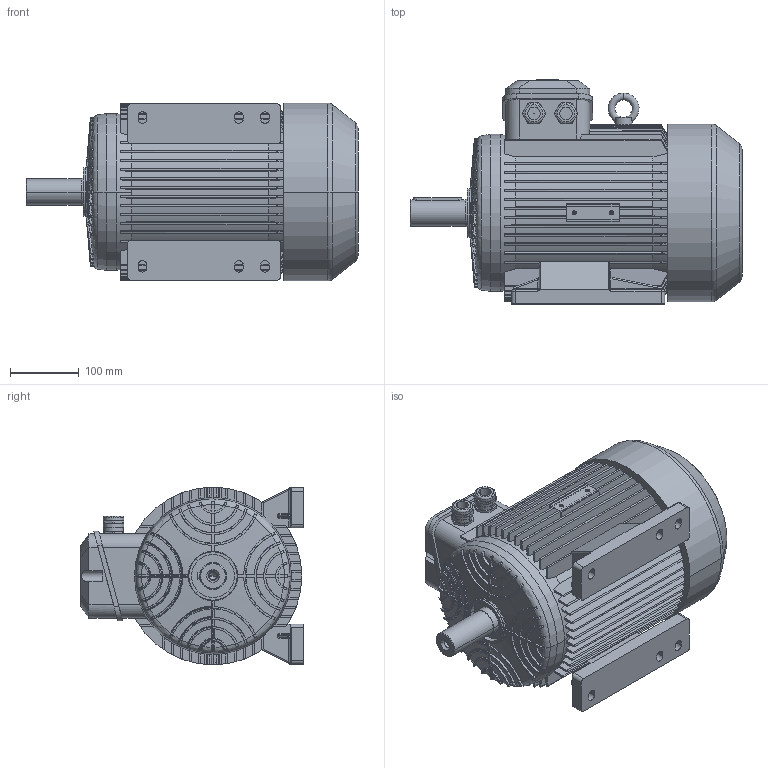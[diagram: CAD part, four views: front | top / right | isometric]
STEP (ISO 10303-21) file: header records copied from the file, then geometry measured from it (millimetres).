
FILE_DESCRIPTION (( 'STEP AP214' ), '1' );
FILE_NAME ('MAP132M4A IM1041_Rev.1A.STEP', '2021-09-20T10:02:19', ( '' ), ( '' ), 'SwSTEP 2.0', 'SolidWorks 2018', '' );
FILE_SCHEMA (( 'AUTOMOTIVE_DESIGN' ));
Length unit declared in the file: millimetre
Products named in the file (1): MAP132M4A IM1041_Rev.1A
Bounding box: 482 x 325 x 258 mm (x, y, z)
Volume: 18113141.4 mm3; surface area: 1183116 mm2
Topology: 1 solids, 6 shells, 1576 faces, 4287 edges, 2754 vertices
Faces by surface type: plane 539, cylinder 426, bspline 279, cone 271, torus 51, sphere 10
Entity records: 76120 total; most frequent: CARTESIAN_POINT 39704, ORIENTED_EDGE 8550, DIRECTION 6416, EDGE_CURVE 4275, VERTEX_POINT 2752, AXIS2_PLACEMENT_3D 2398, EDGE_LOOP 1641, VECTOR 1620
